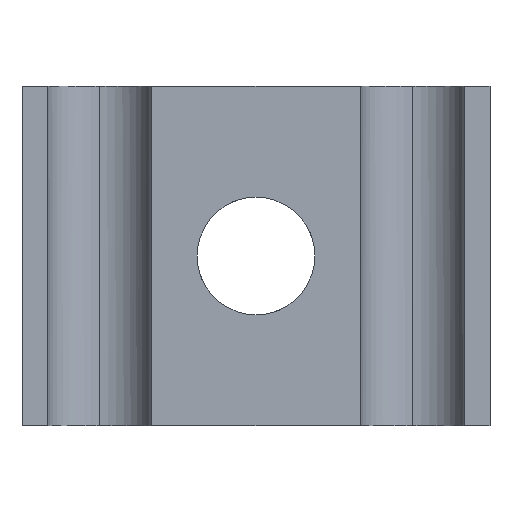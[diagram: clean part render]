
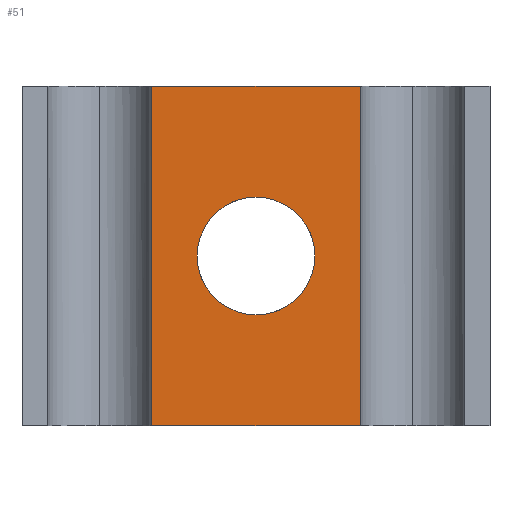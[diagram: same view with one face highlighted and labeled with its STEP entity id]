
A CAD part, front view. The second image highlights one B-rep face of the part: STEP entity #51.
In plain terms, the highlighted planar face has unit normal (0, -1, 0).
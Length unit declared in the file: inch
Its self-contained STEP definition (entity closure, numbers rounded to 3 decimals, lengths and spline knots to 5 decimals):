
#51=ADVANCED_FACE('',(#110,#111),#112,.T.);
#110=FACE_BOUND('',#195,.T.);
#111=FACE_OUTER_BOUND('',#196,.T.);
#112=PLANE('',#197);
#195=EDGE_LOOP('',(#330,#331,#332,#333));
#196=EDGE_LOOP('',(#334,#335,#336,#337));
#197=AXIS2_PLACEMENT_3D('',#338,#339,#340);
#330=ORIENTED_EDGE('',*,*,#459,.T.);
#331=ORIENTED_EDGE('',*,*,#460,.T.);
#332=ORIENTED_EDGE('',*,*,#438,.T.);
#333=ORIENTED_EDGE('',*,*,#461,.T.);
#334=ORIENTED_EDGE('',*,*,#462,.T.);
#335=ORIENTED_EDGE('',*,*,#463,.F.);
#336=ORIENTED_EDGE('',*,*,#464,.T.);
#337=ORIENTED_EDGE('',*,*,#455,.T.);
#338=CARTESIAN_POINT('',(0.55929,0.0,0.0));
#339=DIRECTION('',(0.0,-1.0,0.0));
#340=DIRECTION('',(1.0,0.0,0.0));
#438=EDGE_CURVE('',#508,#506,#509,.T.);
#455=EDGE_CURVE('',#538,#536,#539,.T.);
#459=EDGE_CURVE('',#544,#545,#546,.T.);
#460=EDGE_CURVE('',#545,#508,#547,.T.);
#461=EDGE_CURVE('',#506,#544,#548,.T.);
#462=EDGE_CURVE('',#536,#549,#550,.T.);
#463=EDGE_CURVE('',#551,#549,#552,.T.);
#464=EDGE_CURVE('',#551,#538,#553,.T.);
#506=VERTEX_POINT('',#608);
#508=VERTEX_POINT('',#611);
#509=B_SPLINE_CURVE_WITH_KNOTS('',3,(#612,#613,#614,#615),.UNSPECIFIED.,.F.,.F.,(4,4),(0.0,1.0),.UNSPECIFIED.);
#536=VERTEX_POINT('',#664);
#538=VERTEX_POINT('',#669);
#539=LINE('',#670,#671);
#544=VERTEX_POINT('',#680);
#545=VERTEX_POINT('',#681);
#546=B_SPLINE_CURVE_WITH_KNOTS('',3,(#682,#683,#684,#685),.UNSPECIFIED.,.F.,.F.,(4,4),(0.0,1.0),.UNSPECIFIED.);
#547=B_SPLINE_CURVE_WITH_KNOTS('',3,(#686,#687,#688,#689),.UNSPECIFIED.,.F.,.F.,(4,4),(0.0,1.0),.UNSPECIFIED.);
#548=B_SPLINE_CURVE_WITH_KNOTS('',3,(#690,#691,#692,#693),.UNSPECIFIED.,.F.,.F.,(4,4),(0.0,1.0),.UNSPECIFIED.);
#549=VERTEX_POINT('',#694);
#550=LINE('',#695,#696);
#551=VERTEX_POINT('',#697);
#552=LINE('',#698,#699);
#553=LINE('',#700,#701);
#608=CARTESIAN_POINT('',(0.55929,0.0,0.2656));
#611=CARTESIAN_POINT('',(0.69994,0.0,0.40625));
#612=CARTESIAN_POINT('',(0.69994,0.0,0.40625));
#613=CARTESIAN_POINT('',(0.69994,0.0,0.32859));
#614=CARTESIAN_POINT('',(0.63695,0.,0.2656));
#615=CARTESIAN_POINT('',(0.55929,0.,0.2656));
#664=CARTESIAN_POINT('',(0.80896,0.0,0.8125));
#669=CARTESIAN_POINT('',(0.80896,0.0,0.0));
#670=CARTESIAN_POINT('',(0.80896,0.0,0.0));
#671=VECTOR('',#804,1.0);
#680=CARTESIAN_POINT('',(0.41863,0.0,0.40625));
#681=CARTESIAN_POINT('',(0.55929,0.0,0.54691));
#682=CARTESIAN_POINT('',(0.41863,0.0,0.40625));
#683=CARTESIAN_POINT('',(0.41863,0.,0.48393));
#684=CARTESIAN_POINT('',(0.48159,0.,0.54691));
#685=CARTESIAN_POINT('',(0.55929,0.,0.54691));
#686=CARTESIAN_POINT('',(0.55929,0.0,0.54691));
#687=CARTESIAN_POINT('',(0.63695,0.0,0.54691));
#688=CARTESIAN_POINT('',(0.69994,0.,0.48393));
#689=CARTESIAN_POINT('',(0.69994,0.,0.40625));
#690=CARTESIAN_POINT('',(0.55929,0.0,0.2656));
#691=CARTESIAN_POINT('',(0.48159,0.0,0.2656));
#692=CARTESIAN_POINT('',(0.41863,0.,0.32859));
#693=CARTESIAN_POINT('',(0.41863,0.,0.40625));
#694=CARTESIAN_POINT('',(0.30961,0.0,0.8125));
#695=CARTESIAN_POINT('',(0.30961,0.0,0.8125));
#696=VECTOR('',#806,1.0);
#697=CARTESIAN_POINT('',(0.30961,0.0,0.0));
#698=CARTESIAN_POINT('',(0.30961,0.0,0.0));
#699=VECTOR('',#807,1.0);
#700=CARTESIAN_POINT('',(0.30961,0.0,0.0));
#701=VECTOR('',#808,1.0);
#804=DIRECTION('',(0.0,0.0,1.0));
#806=DIRECTION('',(-1.0,-0.0,-0.0));
#807=DIRECTION('',(0.0,0.0,1.0));
#808=DIRECTION('',(1.0,0.0,0.0));
